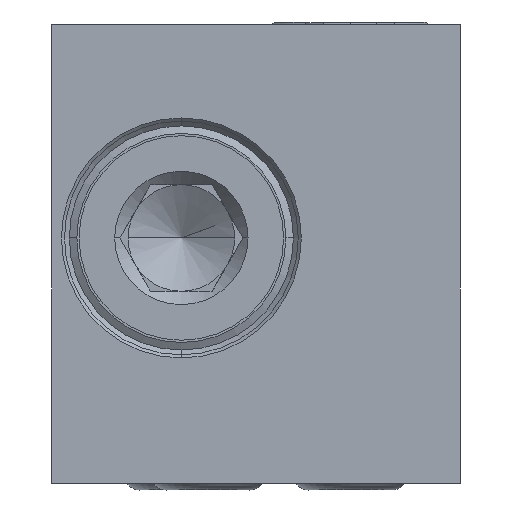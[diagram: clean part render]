
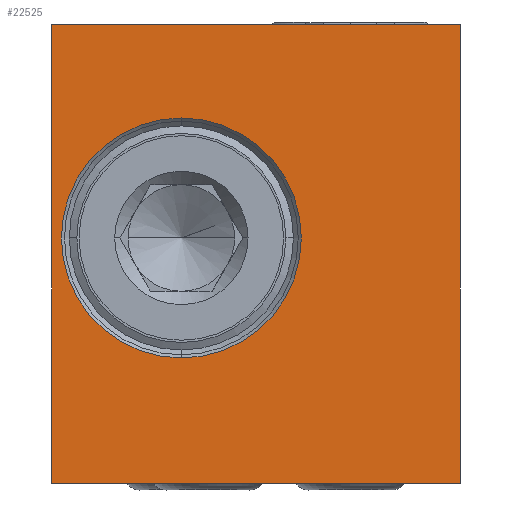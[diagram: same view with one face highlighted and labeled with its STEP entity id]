
A CAD part, left-side view. The second image highlights one B-rep face of the part: STEP entity #22525.
In plain terms, the highlighted planar face has unit normal (-1, 0, 0).
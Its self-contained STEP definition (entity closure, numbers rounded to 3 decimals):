
#4169=DIRECTION('',(0.,0.,1.));
#4170=VECTOR('',#4169,25.8);
#4171=CARTESIAN_POINT('',(-38.,11.5,-12.9));
#4172=LINE('',#4171,#4170);
#4173=DIRECTION('',(0.,-1.,0.));
#4174=VECTOR('',#4173,23.);
#4175=CARTESIAN_POINT('',(-38.,11.5,12.9));
#4176=LINE('',#4175,#4174);
#4177=DIRECTION('',(0.,0.,-1.));
#4178=VECTOR('',#4177,25.8);
#4179=CARTESIAN_POINT('',(-38.,-11.5,12.9));
#4180=LINE('',#4179,#4178);
#4181=DIRECTION('',(0.,1.,0.));
#4182=VECTOR('',#4181,23.);
#4183=CARTESIAN_POINT('',(-38.,-11.5,-12.9));
#4184=LINE('',#4183,#4182);
#4185=CARTESIAN_POINT('',(-38.,4.2,0.9));
#4186=DIRECTION('',(-1.,0.,0.));
#4187=DIRECTION('',(0.,0.,-1.));
#4188=AXIS2_PLACEMENT_3D('',#4185,#4186,#4187);
#4190=CARTESIAN_POINT('',(-38.,4.2,0.9));
#4191=DIRECTION('',(-1.,0.,0.));
#4192=DIRECTION('',(0.,0.,1.));
#4193=AXIS2_PLACEMENT_3D('',#4190,#4191,#4192);
#15415=CARTESIAN_POINT('',(-38.,11.5,12.9));
#15416=VERTEX_POINT('',#15415);
#15417=CARTESIAN_POINT('',(-38.,11.5,-12.9));
#15418=VERTEX_POINT('',#15417);
#15419=CARTESIAN_POINT('',(-38.,-11.5,12.9));
#15420=VERTEX_POINT('',#15419);
#15441=CARTESIAN_POINT('',(-38.,-11.5,-12.9));
#15442=VERTEX_POINT('',#15441);
#15487=CARTESIAN_POINT('',(-38.,4.2,-5.85));
#15488=CARTESIAN_POINT('',(-38.,4.2,7.65));
#15489=VERTEX_POINT('',#15487);
#15490=VERTEX_POINT('',#15488);
#22506=CARTESIAN_POINT('',(-38.,0.,0.));
#22507=DIRECTION('',(-1.,0.,0.));
#22508=DIRECTION('',(0.,-1.,0.));
#22509=AXIS2_PLACEMENT_3D('',#22506,#22507,#22508);
#22510=PLANE('',#22509);
#22511=ORIENTED_EDGE('',*,*,#22499,.T.);
#22512=ORIENTED_EDGE('',*,*,#20211,.T.);
#22514=ORIENTED_EDGE('',*,*,#22513,.T.);
#22516=ORIENTED_EDGE('',*,*,#22515,.T.);
#22517=EDGE_LOOP('',(#22511,#22512,#22514,#22516));
#22518=FACE_OUTER_BOUND('',#22517,.F.);
#22520=ORIENTED_EDGE('',*,*,#22519,.T.);
#22522=ORIENTED_EDGE('',*,*,#22521,.T.);
#22523=EDGE_LOOP('',(#22520,#22522));
#22524=FACE_BOUND('',#22523,.F.);
#22525=ADVANCED_FACE('',(#22518,#22524),#22510,.T.);
#4189=CIRCLE('',#4188,6.75);
#4194=CIRCLE('',#4193,6.75);
#20211=EDGE_CURVE('',#15416,#15420,#4176,.T.);
#22499=EDGE_CURVE('',#15418,#15416,#4172,.T.);
#22513=EDGE_CURVE('',#15420,#15442,#4180,.T.);
#22515=EDGE_CURVE('',#15442,#15418,#4184,.T.);
#22519=EDGE_CURVE('',#15489,#15490,#4189,.T.);
#22521=EDGE_CURVE('',#15490,#15489,#4194,.T.);
